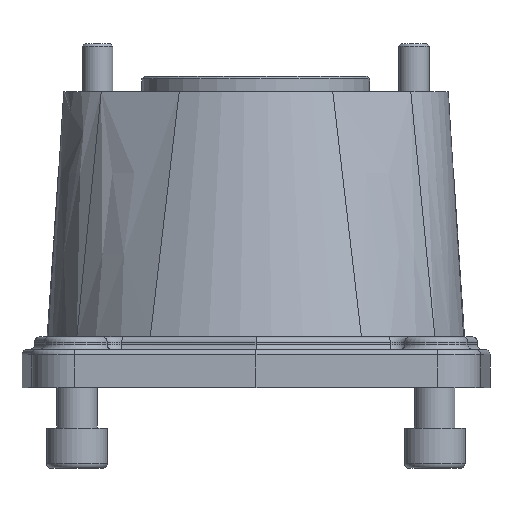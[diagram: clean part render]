
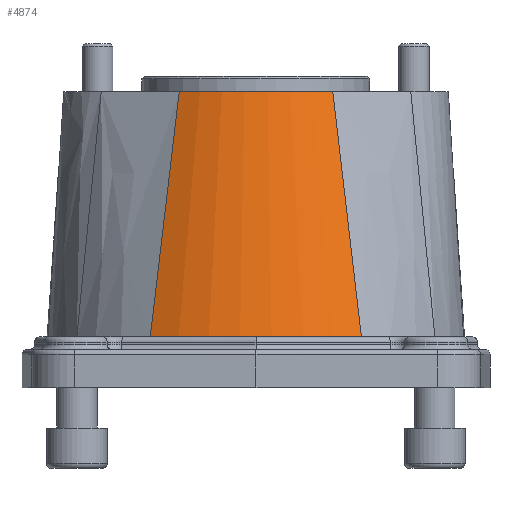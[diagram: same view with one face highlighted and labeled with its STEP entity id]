
A CAD part, left-side view. The second image highlights one B-rep face of the part: STEP entity #4874.
In plain terms, the highlighted free-form (B-spline) face has degree [1, 2] with [2, 3] control points.
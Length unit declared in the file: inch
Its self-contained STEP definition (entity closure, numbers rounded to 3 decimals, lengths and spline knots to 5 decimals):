
#25=(
BOUNDED_SURFACE()
B_SPLINE_SURFACE(1,2,((#8539,#8540,#8541),(#8542,#8543,#8544)),
 .UNSPECIFIED.,.F.,.F.,.F.)
B_SPLINE_SURFACE_WITH_KNOTS((2,2),(3,3),(-0.00035,1.66007),
(-0.53004,0.53031),.UNSPECIFIED.)
GEOMETRIC_REPRESENTATION_ITEM()
RATIONAL_B_SPLINE_SURFACE(((1.,0.863,1.),(1.,0.863,
1.)))
REPRESENTATION_ITEM('')
SURFACE()
);
#633=FACE_OUTER_BOUND('',#944,.T.);
#944=EDGE_LOOP('',(#4216,#4217,#4218,#4219));
#1258=LINE('',#8538,#1570);
#1259=LINE('',#8545,#1571);
#1570=VECTOR('',#6779,0.3937);
#1571=VECTOR('',#6780,3.91998);
#1689=CIRCLE('',#5161,3.24803);
#1715=CIRCLE('',#5193,2.3622);
#2079=VERTEX_POINT('',#7740);
#2080=VERTEX_POINT('',#7747);
#2125=VERTEX_POINT('',#7857);
#2126=VERTEX_POINT('',#7859);
#2625=EDGE_CURVE('',#2079,#2080,#1689,.T.);
#2675=EDGE_CURVE('',#2126,#2125,#1715,.T.);
#2917=EDGE_CURVE('',#2125,#2080,#1258,.T.);
#2918=EDGE_CURVE('',#2126,#2079,#1259,.T.);
#4216=ORIENTED_EDGE('',*,*,#2675,.T.);
#4217=ORIENTED_EDGE('',*,*,#2917,.T.);
#4218=ORIENTED_EDGE('',*,*,#2625,.F.);
#4219=ORIENTED_EDGE('',*,*,#2918,.F.);
#4874=ADVANCED_FACE('',(#633),#25,.F.);
#5161=AXIS2_PLACEMENT_3D('',#7748,#6122,#6123);
#5193=AXIS2_PLACEMENT_3D('',#7860,#6208,#6209);
#6122=DIRECTION('center_axis',(0.,0.,
-1.));
#6123=DIRECTION('ref_axis',(-1.,0.,0.));
#6208=DIRECTION('center_axis',(0.,0.,-1.));
#6209=DIRECTION('ref_axis',(-0.863,0.506,0.));
#6779=DIRECTION('',(-0.195,0.115,-0.974));
#6780=DIRECTION('',(-0.195,-0.114,-0.974));
#7740=CARTESIAN_POINT('',(-2.80214,-1.64248,-3.8189));
#7747=CARTESIAN_POINT('',(-2.80214,1.64248,-3.8189));
#7748=CARTESIAN_POINT('Origin',(0.,0.,-3.8189));
#7857=CARTESIAN_POINT('',(-2.03792,1.19181,0.));
#7859=CARTESIAN_POINT('',(-2.03792,-1.19725,0.));
#7860=CARTESIAN_POINT('Origin',(0.,-0.00272,
0.));
#8538=CARTESIAN_POINT('',(-2.03792,1.19181,0.));
#8539=CARTESIAN_POINT('Ctrl Pts',(-2.03792,-1.19725,0.));
#8540=CARTESIAN_POINT('Ctrl Pts',(-2.73788,-0.00272,
0.00081));
#8541=CARTESIAN_POINT('Ctrl Pts',(-2.03759,1.19162,0.00161));
#8542=CARTESIAN_POINT('Ctrl Pts',(-2.80258,-1.64274,-3.82112));
#8543=CARTESIAN_POINT('Ctrl Pts',(-3.76518,0.,
-3.82001));
#8544=CARTESIAN_POINT('Ctrl Pts',(-2.80214,1.64248,-3.8189));
#8545=CARTESIAN_POINT('',(-2.03792,-1.19725,0.));
